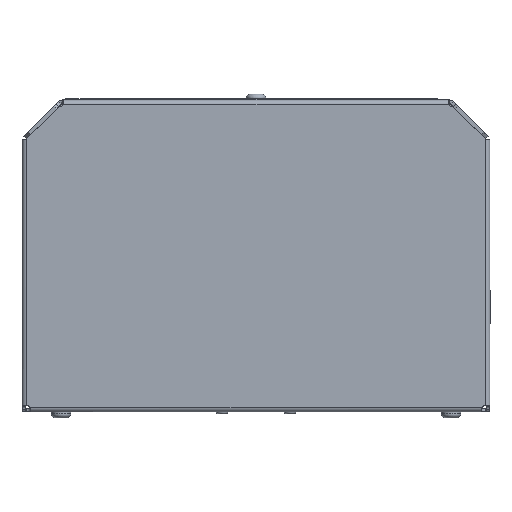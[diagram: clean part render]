
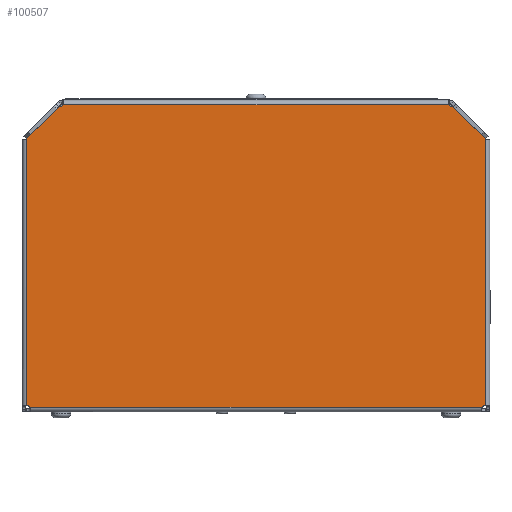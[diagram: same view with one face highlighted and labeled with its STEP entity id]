
A CAD part, left-side view. The second image highlights one B-rep face of the part: STEP entity #100507.
In plain terms, the highlighted planar face has unit normal (-1, 0, 0).
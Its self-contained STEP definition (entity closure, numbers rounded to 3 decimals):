
#1312 = LINE ( 'NONE', #90862, #66758 ) ;
#1969 = ORIENTED_EDGE ( 'NONE', *, *, #35282, .F. ) ;
#1973 = CARTESIAN_POINT ( 'NONE',  ( -1., 58.016, -38.125 ) ) ;
#3040 = VERTEX_POINT ( 'NONE', #36640 ) ;
#4925 = CARTESIAN_POINT ( 'NONE',  ( -1., -59.009, -38.824 ) ) ;
#7793 = EDGE_CURVE ( 'NONE', #110023, #3040, #65330, .T. ) ;
#9289 = ORIENTED_EDGE ( 'NONE', *, *, #103051, .F. ) ;
#9763 = VECTOR ( 'NONE', #55696, 1000. ) ;
#10525 = ORIENTED_EDGE ( 'NONE', *, *, #92349, .T. ) ;
#13355 = DIRECTION ( 'NONE',  ( 0., -0.707, 0.707 ) ) ;
#13985 = LINE ( 'NONE', #57996, #114388 ) ;
#16526 = CARTESIAN_POINT ( 'NONE',  ( -1., 58.75, 30.625 ) ) ;
#18037 = EDGE_CURVE ( 'NONE', #83393, #27495, #65021, .T. ) ;
#19628 = DIRECTION ( 'NONE',  ( 0., 0., 1. ) ) ;
#21001 = ORIENTED_EDGE ( 'NONE', *, *, #108121, .F. ) ;
#22002 = VERTEX_POINT ( 'NONE', #41847 ) ;
#22709 = CARTESIAN_POINT ( 'NONE',  ( -1., 50., 39.375 ) ) ;
#22776 = DIRECTION ( 'NONE',  ( 0., 0., 1. ) ) ;
#23187 = DIRECTION ( 'NONE',  ( -1., 0., 0. ) ) ;
#23624 = VERTEX_POINT ( 'NONE', #48578 ) ;
#24566 = AXIS2_PLACEMENT_3D ( 'NONE', #4925, #23187, #22776 ) ;
#27495 = VERTEX_POINT ( 'NONE', #123266 ) ;
#34109 = CARTESIAN_POINT ( 'NONE',  ( -1., -58.75, -37.652 ) ) ;
#34819 = ORIENTED_EDGE ( 'NONE', *, *, #60705, .F. ) ;
#35282 = EDGE_CURVE ( 'NONE', #95574, #110023, #61435, .T. ) ;
#35521 = VECTOR ( 'NONE', #84428, 1000. ) ;
#36640 = CARTESIAN_POINT ( 'NONE',  ( -1., -50.44, 38.935 ) ) ;
#37956 = CARTESIAN_POINT ( 'NONE',  ( -1., 58.991, -38.824 ) ) ;
#39959 = EDGE_CURVE ( 'NONE', #27495, #100558, #125373, .T. ) ;
#41132 = DIRECTION ( 'NONE',  ( 0., 0., 1. ) ) ;
#41847 = CARTESIAN_POINT ( 'NONE',  ( -1., 50.44, 38.935 ) ) ;
#44719 = DIRECTION ( 'NONE',  ( -1., 0., 0. ) ) ;
#45858 = AXIS2_PLACEMENT_3D ( 'NONE', #99356, #119268, #41132 ) ;
#45938 = ORIENTED_EDGE ( 'NONE', *, *, #7793, .F. ) ;
#48578 = CARTESIAN_POINT ( 'NONE',  ( -1., -58.75, 30.625 ) ) ;
#53187 = AXIS2_PLACEMENT_3D ( 'NONE', #119644, #110708, #100539 ) ;
#53693 = CARTESIAN_POINT ( 'NONE',  ( -1., -50.321, 39.928 ) ) ;
#55696 = DIRECTION ( 'NONE',  ( 0., -1., 0. ) ) ;
#57996 = CARTESIAN_POINT ( 'NONE',  ( -1., -58.75, 30.625 ) ) ;
#60705 = EDGE_CURVE ( 'NONE', #3040, #23624, #119187, .T. ) ;
#61435 = LINE ( 'NONE', #65880, #9763 ) ;
#62170 = EDGE_CURVE ( 'NONE', #23624, #80714, #13985, .T. ) ;
#63209 = LINE ( 'NONE', #22709, #84409 ) ;
#64700 = FACE_OUTER_BOUND ( 'NONE', #81537, .T. ) ;
#64919 = CARTESIAN_POINT ( 'NONE',  ( -1., -50., 39.375 ) ) ;
#65021 = CIRCLE ( 'NONE', #91384, 1.2 ) ;
#65330 = CIRCLE ( 'NONE', #106046, 1. ) ;
#65880 = CARTESIAN_POINT ( 'NONE',  ( -1., 50., 39.375 ) ) ;
#66758 = VECTOR ( 'NONE', #91282, 1000. ) ;
#73747 = VECTOR ( 'NONE', #103260, 1000. ) ;
#75263 = ORIENTED_EDGE ( 'NONE', *, *, #18037, .F. ) ;
#76349 = CARTESIAN_POINT ( 'NONE',  ( -1., -49.488, 39.375 ) ) ;
#77274 = ORIENTED_EDGE ( 'NONE', *, *, #62170, .F. ) ;
#80714 = VERTEX_POINT ( 'NONE', #34109 ) ;
#80720 = VERTEX_POINT ( 'NONE', #96098 ) ;
#81537 = EDGE_LOOP ( 'NONE', ( #45938, #1969, #21001, #108685, #109160, #75263, #10525, #9289, #77274, #34819 ) ) ;
#81810 = PLANE ( 'NONE',  #53187 ) ;
#83393 = VERTEX_POINT ( 'NONE', #1973 ) ;
#84409 = VECTOR ( 'NONE', #13355, 1000. ) ;
#84428 = DIRECTION ( 'NONE',  ( 0., -0.707, -0.707 ) ) ;
#84444 = CIRCLE ( 'NONE', #45858, 1. ) ;
#90862 = CARTESIAN_POINT ( 'NONE',  ( -1., 58.75, -38.125 ) ) ;
#91282 = DIRECTION ( 'NONE',  ( 0., -1., 0. ) ) ;
#91384 = AXIS2_PLACEMENT_3D ( 'NONE', #37956, #115693, #19628 ) ;
#92349 = EDGE_CURVE ( 'NONE', #83393, #80720, #1312, .T. ) ;
#93150 = CIRCLE ( 'NONE', #24566, 1.2 ) ;
#93210 = DIRECTION ( 'NONE',  ( 0., 0., 1. ) ) ;
#95454 = EDGE_CURVE ( 'NONE', #100558, #22002, #63209, .T. ) ;
#95574 = VERTEX_POINT ( 'NONE', #122557 ) ;
#96098 = CARTESIAN_POINT ( 'NONE',  ( -1., -58.033, -38.125 ) ) ;
#99356 = CARTESIAN_POINT ( 'NONE',  ( -1., 50.321, 39.928 ) ) ;
#100507 = ADVANCED_FACE ( 'NONE', ( #64700 ), #81810, .F. ) ;
#100539 = DIRECTION ( 'NONE',  ( 0., 0., -1. ) ) ;
#100558 = VERTEX_POINT ( 'NONE', #120882 ) ;
#103051 = EDGE_CURVE ( 'NONE', #80714, #80720, #93150, .T. ) ;
#103260 = DIRECTION ( 'NONE',  ( 0., 0., 1. ) ) ;
#106046 = AXIS2_PLACEMENT_3D ( 'NONE', #53693, #44719, #93210 ) ;
#106824 = DIRECTION ( 'NONE',  ( 0., 0., -1. ) ) ;
#108121 = EDGE_CURVE ( 'NONE', #22002, #95574, #84444, .T. ) ;
#108685 = ORIENTED_EDGE ( 'NONE', *, *, #95454, .F. ) ;
#109160 = ORIENTED_EDGE ( 'NONE', *, *, #39959, .F. ) ;
#110023 = VERTEX_POINT ( 'NONE', #76349 ) ;
#110708 = DIRECTION ( 'NONE',  ( 1., 0., 0. ) ) ;
#114388 = VECTOR ( 'NONE', #106824, 1000. ) ;
#115693 = DIRECTION ( 'NONE',  ( -1., 0., 0. ) ) ;
#119187 = LINE ( 'NONE', #64919, #35521 ) ;
#119268 = DIRECTION ( 'NONE',  ( -1., 0., 0. ) ) ;
#119644 = CARTESIAN_POINT ( 'NONE',  ( -1., 0., 0. ) ) ;
#120882 = CARTESIAN_POINT ( 'NONE',  ( -1., 58.75, 30.625 ) ) ;
#122557 = CARTESIAN_POINT ( 'NONE',  ( -1., 49.488, 39.375 ) ) ;
#123266 = CARTESIAN_POINT ( 'NONE',  ( -1., 58.75, -37.648 ) ) ;
#125373 = LINE ( 'NONE', #16526, #73747 ) ;
